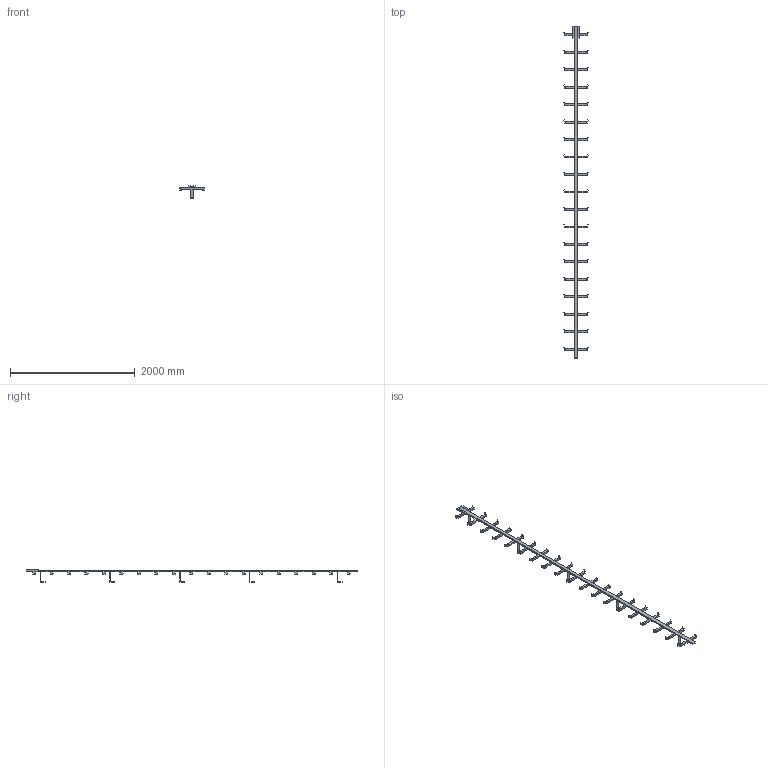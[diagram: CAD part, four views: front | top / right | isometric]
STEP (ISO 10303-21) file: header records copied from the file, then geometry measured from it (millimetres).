
FILE_DESCRIPTION((''),'2;1');
FILE_NAME('017_000114','2017-08-01T',('set'),('HUBER SE'),'PRO/ENGINEER BY PARAMETRIC TECHNOLOGY CORPORATION, 2015280','PRO/ENGINEER BY PARAMETRIC TECHNOLOGY CORPORATION, 2015280','');
FILE_SCHEMA(('CONFIG_CONTROL_DESIGN'));
Length unit declared in the file: millimetre
Products named in the file (1): 017_000114
Bounding box: 394 x 5320 x 195 mm (x, y, z)
Volume: 14149446.5 mm3; surface area: 1924090.1 mm2
Topology: 1 solids, 1 shells, 515 faces, 1547 edges, 1039 vertices
Faces by surface type: plane 515
Entity records: 16798 total; most frequent: CARTESIAN_POINT 3142, ORIENTED_EDGE 2892, DIRECTION 2532, VECTOR 1500, LINE 1500, EDGE_CURVE 1446, VERTEX_POINT 938, EDGE_LOOP 520
